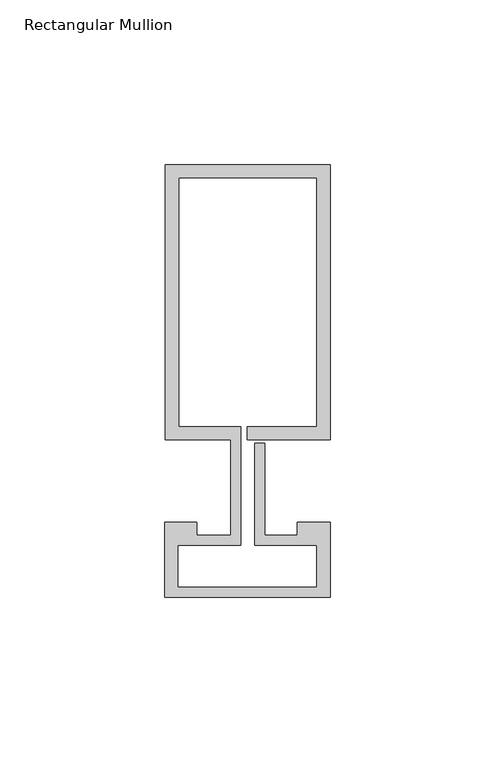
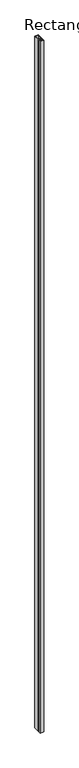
"""IFC4 building model written with IfcOpenShell, lengths in millimetres: member geometry, Rectangular Mullion : Reynaers_CW-50_Mullion-Transom_Vertical_83.5mm_Facecap-02C."""

from ifc_helpers import new_model, si_unit, frame, origin, place, context, project, spatial, polyline, outline, extrude, source, transform, mapped, element, save


def rectangular_mullion_f764ad4b(model_context):
    return source(origin(), model_context, "Body", "SweptSolid", [
        extrude(outline(polyline([(-24.8004059, 96.0), (25.1995941, 96.0), (25.1995941, 12.5), (0.0, 12.5), (0.0, 16.5), (21.1995941, 16.5), (21.1995941, 92.0), (-20.8004059, 92.0), (-20.8004059, 16.5), (-1.9004059, 16.5), (-1.9004059, -19.5), (-20.994845, -19.5), (-20.994845, -32.2191338), (21.1995941, -32.2191338), (21.1995941, -19.5), (2.2995941, -19.5), (2.2995941, 11.5), (5.2995941, 11.5), (5.2995941, -16.5), (15.2996495, -16.5), (15.2996495, -12.5), (25.1995941, -12.5), (25.1995941, -35.3), (-24.994845, -35.3), (-24.994845, -12.5), (-15.2996495, -12.5), (-15.2996495, -16.5), (-4.9004059, -16.5), (-4.9004059, 12.5), (-24.8004059, 12.5), (-24.8004059, 96.0)])), frame((0.0, 0.0, -10400.0), z_axis=(0.0, 0.0, 1.0), x_axis=(1.0, 0.0, 0.0)), (0.0, 0.0, 1.0), 10400.0),
    ])


if __name__ == "__main__":
    model = new_model("IFC4")
    model_context = context("Model", 3, world=origin())
    ifc_project = project(units=[si_unit("LENGTHUNIT", "METRE", prefix="MILLI")], contexts=[model_context])
    site = spatial("IfcSite", under=ifc_project)
    building = spatial("IfcBuilding", under=site)
    placement = place(None, origin())
    rectangular_mullion_shape = rectangular_mullion_f764ad4b(model_context)
    element("IfcMember", 1, ObjectType="Rectangular Mullion : Reynaers_CW-50_Mullion-Transom_Vertical_83.5mm_Facecap-02C", at=placement, inside=building, context=model_context, shape_type="MappedRepresentation", body=[
        mapped(rectangular_mullion_shape, transform((0.0, 0.0, 0.0), x_axis=(1.0, 0.0, 0.0), y_axis=(0.0, 1.0, 0.0), z_axis=(0.0, 0.0, 1.0))),
    ])
    save(model, "model.ifc")
